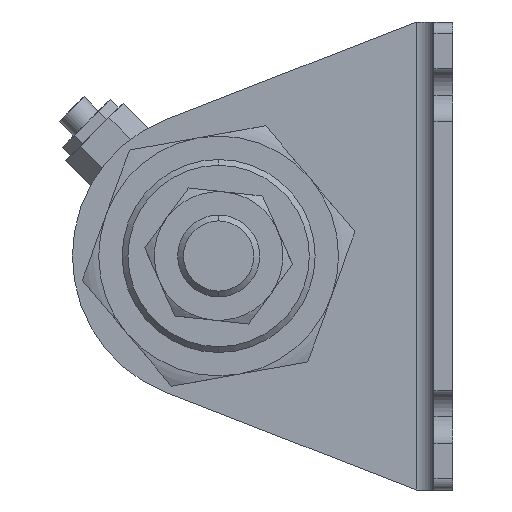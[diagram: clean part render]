
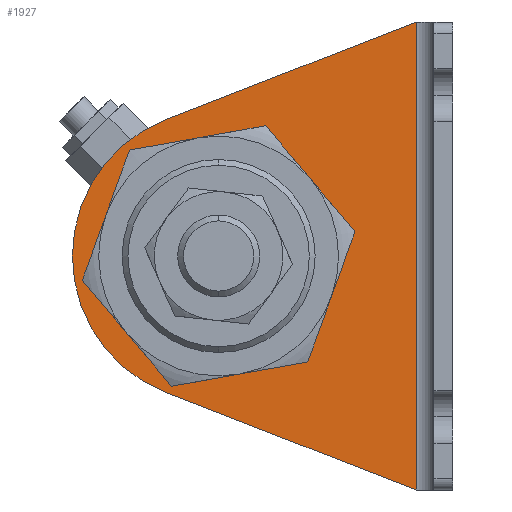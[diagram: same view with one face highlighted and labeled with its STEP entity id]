
A CAD part, left-side view. The second image highlights one B-rep face of the part: STEP entity #1927.
In plain terms, the highlighted planar face has unit normal (-1, 0, 0) as drawn and (1, 0, 0) by its records, which use the part's own axes.
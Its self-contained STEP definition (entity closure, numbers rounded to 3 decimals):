
#126 = ORIENTED_EDGE ( 'NONE', *, *, #2542, .F. ) ;
#296 = ORIENTED_EDGE ( 'NONE', *, *, #5160, .F. ) ;
#309 = VERTEX_POINT ( 'NONE', #1070 ) ;
#317 = CARTESIAN_POINT ( 'NONE',  ( 3.2, 56.5, -40. ) ) ;
#338 = CIRCLE ( 'NONE', #5573, 25. ) ;
#339 = CARTESIAN_POINT ( 'NONE',  ( 3.2, 6.2, -80. ) ) ;
#354 = AXIS2_PLACEMENT_3D ( 'NONE', #4915, #362, #976 ) ;
#362 = DIRECTION ( 'NONE',  ( 1., 0., 0. ) ) ;
#519 = LINE ( 'NONE', #3583, #5164 ) ;
#959 = DIRECTION ( 'NONE',  ( 0., 1., 0. ) ) ;
#976 = DIRECTION ( 'NONE',  ( 0., 1., 0. ) ) ;
#1070 = CARTESIAN_POINT ( 'NONE',  ( 3.2, 49.076, -16.706 ) ) ;
#1084 = CARTESIAN_POINT ( 'NONE',  ( 3.2, 6.2, -80. ) ) ;
#1201 = EDGE_CURVE ( 'NONE', #1838, #2687, #1634, .T. ) ;
#1585 = AXIS2_PLACEMENT_3D ( 'NONE', #5246, #3477, #959 ) ;
#1612 = EDGE_CURVE ( 'NONE', #2687, #5166, #4914, .T. ) ;
#1634 = LINE ( 'NONE', #4920, #2466 ) ;
#1679 = EDGE_LOOP ( 'NONE', ( #2103, #2172, #2655, #3713, #3107 ) ) ;
#1760 = CIRCLE ( 'NONE', #4654, 16.5 ) ;
#1808 = CARTESIAN_POINT ( 'NONE',  ( 3.2, 49.076, -63.294 ) ) ;
#1838 = VERTEX_POINT ( 'NONE', #339 ) ;
#1927 = ADVANCED_FACE ( 'NONE', ( #2918, #4027 ), #5428, .T. ) ;
#1999 = EDGE_CURVE ( 'NONE', #2885, #309, #519, .T. ) ;
#2103 = ORIENTED_EDGE ( 'NONE', *, *, #1201, .T. ) ;
#2172 = ORIENTED_EDGE ( 'NONE', *, *, #1612, .T. ) ;
#2210 = EDGE_LOOP ( 'NONE', ( #296, #126 ) ) ;
#2345 = DIRECTION ( 'NONE',  ( 0., 0.932, 0.363 ) ) ;
#2445 = CARTESIAN_POINT ( 'NONE',  ( 3.2, 40., -40. ) ) ;
#2466 = VECTOR ( 'NONE', #2345, 1000. ) ;
#2490 = VERTEX_POINT ( 'NONE', #4633 ) ;
#2542 = EDGE_CURVE ( 'NONE', #2490, #3176, #1760, .T. ) ;
#2655 = ORIENTED_EDGE ( 'NONE', *, *, #5264, .T. ) ;
#2687 = VERTEX_POINT ( 'NONE', #1808 ) ;
#2885 = VERTEX_POINT ( 'NONE', #5036 ) ;
#2918 = FACE_BOUND ( 'NONE', #2210, .T. ) ;
#2919 = CARTESIAN_POINT ( 'NONE',  ( 3.2, 40., -40. ) ) ;
#3100 = VECTOR ( 'NONE', #4571, 1000. ) ;
#3107 = ORIENTED_EDGE ( 'NONE', *, *, #4197, .T. ) ;
#3176 = VERTEX_POINT ( 'NONE', #317 ) ;
#3209 = DIRECTION ( 'NONE',  ( 1., 0., 0. ) ) ;
#3217 = CIRCLE ( 'NONE', #4054, 16.5 ) ;
#3477 = DIRECTION ( 'NONE',  ( 1., 0., 0. ) ) ;
#3583 = CARTESIAN_POINT ( 'NONE',  ( 3.2, 30.657, -9.529 ) ) ;
#3713 = ORIENTED_EDGE ( 'NONE', *, *, #1999, .F. ) ;
#3812 = DIRECTION ( 'NONE',  ( 1., 0., 0. ) ) ;
#3886 = LINE ( 'NONE', #1084, #3100 ) ;
#4027 = FACE_OUTER_BOUND ( 'NONE', #1679, .T. ) ;
#4054 = AXIS2_PLACEMENT_3D ( 'NONE', #2919, #3209, #5622 ) ;
#4197 = EDGE_CURVE ( 'NONE', #2885, #1838, #3886, .T. ) ;
#4259 = DIRECTION ( 'NONE',  ( 1., 0., 0. ) ) ;
#4571 = DIRECTION ( 'NONE',  ( 0., 0., -1. ) ) ;
#4633 = CARTESIAN_POINT ( 'NONE',  ( 3.2, 23.5, -40. ) ) ;
#4643 = DIRECTION ( 'NONE',  ( 0., 1., 0. ) ) ;
#4654 = AXIS2_PLACEMENT_3D ( 'NONE', #2445, #4259, #4643 ) ;
#4667 = CARTESIAN_POINT ( 'NONE',  ( 3.2, 40., -40. ) ) ;
#4914 = CIRCLE ( 'NONE', #354, 25. ) ;
#4915 = CARTESIAN_POINT ( 'NONE',  ( 3.2, 40., -40. ) ) ;
#4920 = CARTESIAN_POINT ( 'NONE',  ( 3.2, 3.595, -81.015 ) ) ;
#5036 = CARTESIAN_POINT ( 'NONE',  ( 3.2, 6.2, 0. ) ) ;
#5079 = DIRECTION ( 'NONE',  ( 0., 0.932, -0.363 ) ) ;
#5160 = EDGE_CURVE ( 'NONE', #3176, #2490, #3217, .T. ) ;
#5164 = VECTOR ( 'NONE', #5079, 1000. ) ;
#5166 = VERTEX_POINT ( 'NONE', #5255 ) ;
#5246 = CARTESIAN_POINT ( 'NONE',  ( 3.2, 3.2, -80. ) ) ;
#5255 = CARTESIAN_POINT ( 'NONE',  ( 3.2, 65., -40. ) ) ;
#5264 = EDGE_CURVE ( 'NONE', #5166, #309, #338, .T. ) ;
#5428 = PLANE ( 'NONE',  #1585 ) ;
#5573 = AXIS2_PLACEMENT_3D ( 'NONE', #4667, #3812, #5658 ) ;
#5622 = DIRECTION ( 'NONE',  ( 0., 1., 0. ) ) ;
#5658 = DIRECTION ( 'NONE',  ( 0., 1., 0. ) ) ;
